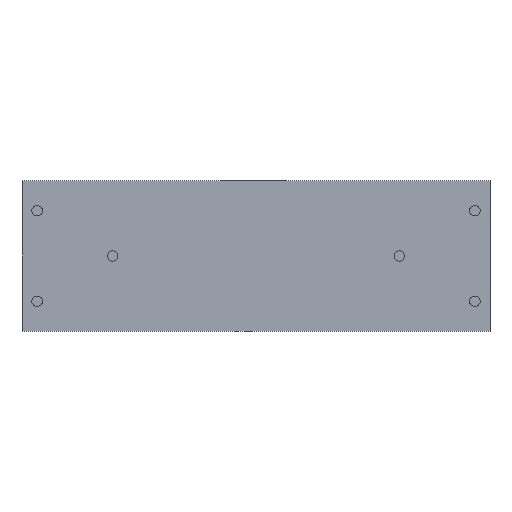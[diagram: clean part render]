
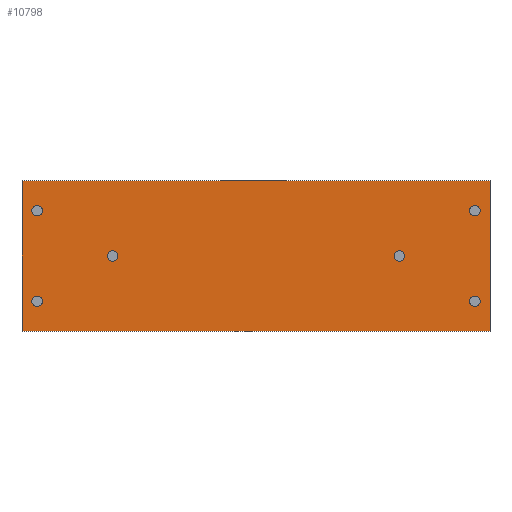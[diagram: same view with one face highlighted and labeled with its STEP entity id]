
A CAD part, front view. The second image highlights one B-rep face of the part: STEP entity #10798.
In plain terms, the highlighted planar face has unit normal (0, -1, 0).
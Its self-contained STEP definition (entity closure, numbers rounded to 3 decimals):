
#364=CIRCLE('',#11440,3.5);
#365=CIRCLE('',#11441,3.5);
#366=CIRCLE('',#11442,3.5);
#367=CIRCLE('',#11443,3.5);
#368=CIRCLE('',#11444,3.5);
#369=CIRCLE('',#11445,3.5);
#1108=ORIENTED_EDGE('',*,*,#4405,.F.);
#1109=ORIENTED_EDGE('',*,*,#4406,.F.);
#1110=ORIENTED_EDGE('',*,*,#4407,.T.);
#1111=ORIENTED_EDGE('',*,*,#4408,.F.);
#1112=ORIENTED_EDGE('',*,*,#4409,.F.);
#1113=ORIENTED_EDGE('',*,*,#4410,.F.);
#1114=ORIENTED_EDGE('',*,*,#4359,.T.);
#1115=ORIENTED_EDGE('',*,*,#4411,.F.);
#1116=ORIENTED_EDGE('',*,*,#4412,.F.);
#1117=ORIENTED_EDGE('',*,*,#4403,.T.);
#4359=EDGE_CURVE('',#6014,#6013,#7123,.T.);
#4403=EDGE_CURVE('',#6048,#6014,#7167,.T.);
#4405=EDGE_CURVE('',#6049,#6049,#364,.T.);
#4406=EDGE_CURVE('',#6050,#6050,#365,.T.);
#4407=EDGE_CURVE('',#6051,#6051,#366,.T.);
#4408=EDGE_CURVE('',#6052,#6052,#367,.T.);
#4409=EDGE_CURVE('',#6053,#6053,#368,.T.);
#4410=EDGE_CURVE('',#6054,#6054,#369,.T.);
#4411=EDGE_CURVE('',#6055,#6013,#7169,.T.);
#4412=EDGE_CURVE('',#6048,#6055,#7170,.T.);
#6013=VERTEX_POINT('',#16314);
#6014=VERTEX_POINT('',#16316);
#6048=VERTEX_POINT('',#16401);
#6049=VERTEX_POINT('',#16405);
#6050=VERTEX_POINT('',#16407);
#6051=VERTEX_POINT('',#16409);
#6052=VERTEX_POINT('',#16411);
#6053=VERTEX_POINT('',#16413);
#6054=VERTEX_POINT('',#16415);
#6055=VERTEX_POINT('',#16417);
#7123=LINE('',#16315,#8119);
#7167=LINE('',#16400,#8163);
#7169=LINE('',#16416,#8165);
#7170=LINE('',#16418,#8166);
#8119=VECTOR('',#12742,1000.);
#8163=VECTOR('',#12800,1000.);
#8165=VECTOR('',#12816,1000.);
#8166=VECTOR('',#12817,1000.);
#9097=EDGE_LOOP('',(#1108));
#9098=EDGE_LOOP('',(#1109));
#9099=EDGE_LOOP('',(#1110));
#9100=EDGE_LOOP('',(#1111));
#9101=EDGE_LOOP('',(#1112));
#9102=EDGE_LOOP('',(#1113));
#9103=EDGE_LOOP('',(#1114,#1115,#1116,#1117));
#9807=FACE_BOUND('',#9097,.T.);
#9808=FACE_BOUND('',#9098,.T.);
#9809=FACE_BOUND('',#9099,.T.);
#9810=FACE_BOUND('',#9100,.T.);
#9811=FACE_BOUND('',#9101,.T.);
#9812=FACE_BOUND('',#9102,.T.);
#9813=FACE_BOUND('',#9103,.T.);
#10517=PLANE('',#11439);
#10798=ADVANCED_FACE('',(#9807,#9808,#9809,#9810,#9811,#9812,#9813),#10517,
 .F.);
#11439=AXIS2_PLACEMENT_3D('',#16403,#12802,#12803);
#11440=AXIS2_PLACEMENT_3D('',#16404,#12804,#12805);
#11441=AXIS2_PLACEMENT_3D('',#16406,#12806,#12807);
#11442=AXIS2_PLACEMENT_3D('',#16408,#12808,#12809);
#11443=AXIS2_PLACEMENT_3D('',#16410,#12810,#12811);
#11444=AXIS2_PLACEMENT_3D('',#16412,#12812,#12813);
#11445=AXIS2_PLACEMENT_3D('',#16414,#12814,#12815);
#12742=DIRECTION('',(0.,0.,-1.));
#12800=DIRECTION('',(-1.,0.,0.));
#12802=DIRECTION('',(0.,1.,0.));
#12803=DIRECTION('',(0.,0.,1.));
#12804=DIRECTION('',(0.,-1.,0.));
#12805=DIRECTION('',(0.,0.,-1.));
#12806=DIRECTION('',(0.,-1.,0.));
#12807=DIRECTION('',(0.,0.,-1.));
#12808=DIRECTION('',(0.,1.,0.));
#12809=DIRECTION('',(0.,0.,1.));
#12810=DIRECTION('',(0.,-1.,0.));
#12811=DIRECTION('',(0.,0.,-1.));
#12812=DIRECTION('',(0.,-1.,0.));
#12813=DIRECTION('',(0.,0.,-1.));
#12814=DIRECTION('',(0.,-1.,0.));
#12815=DIRECTION('',(0.,0.,-1.));
#12816=DIRECTION('',(-1.,0.,0.));
#12817=DIRECTION('',(0.,0.,-1.));
#16314=CARTESIAN_POINT('',(0.,0.,-49.7));
#16315=CARTESIAN_POINT('',(0.,0.,49.7));
#16316=CARTESIAN_POINT('',(0.,0.,49.7));
#16400=CARTESIAN_POINT('',(310.,0.,49.7));
#16401=CARTESIAN_POINT('',(310.,0.,49.7));
#16403=CARTESIAN_POINT('',(310.,0.,49.7));
#16404=CARTESIAN_POINT('',(250.,0.,0.));
#16405=CARTESIAN_POINT('',(250.,0.,-3.5));
#16406=CARTESIAN_POINT('',(60.,0.,0.));
#16407=CARTESIAN_POINT('',(60.,0.,-3.5));
#16408=CARTESIAN_POINT('',(300.,0.,30.));
#16409=CARTESIAN_POINT('',(300.,0.,33.5));
#16410=CARTESIAN_POINT('',(300.,0.,-30.));
#16411=CARTESIAN_POINT('',(300.,0.,-33.5));
#16412=CARTESIAN_POINT('',(10.,0.,-30.));
#16413=CARTESIAN_POINT('',(10.,0.,-33.5));
#16414=CARTESIAN_POINT('',(10.,0.,30.));
#16415=CARTESIAN_POINT('',(10.,0.,26.5));
#16416=CARTESIAN_POINT('',(310.,0.,-49.7));
#16417=CARTESIAN_POINT('',(310.,0.,-49.7));
#16418=CARTESIAN_POINT('',(310.,0.,49.7));
